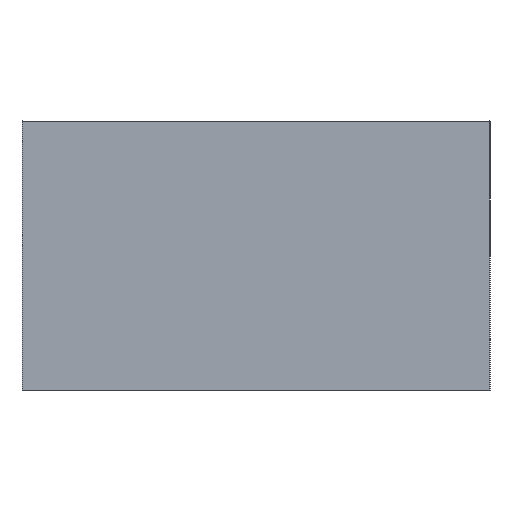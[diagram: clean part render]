
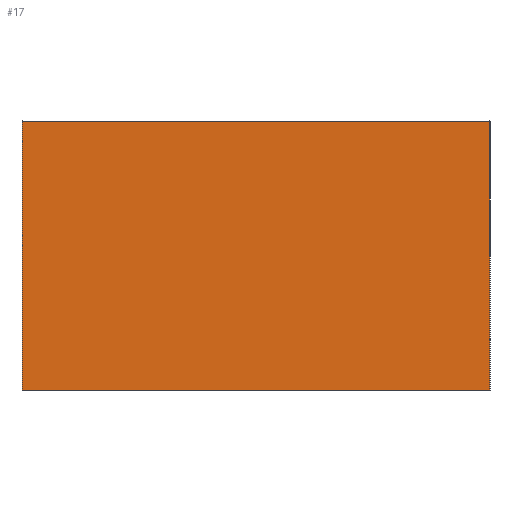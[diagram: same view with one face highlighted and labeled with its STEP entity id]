
A CAD part, left-side view. The second image highlights one B-rep face of the part: STEP entity #17.
In plain terms, the highlighted planar face has unit normal (-1, 0, 0).
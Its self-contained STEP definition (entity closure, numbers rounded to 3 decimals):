
#17 = ADVANCED_FACE('',(#18),#32,.F.);
#18 = FACE_BOUND('',#19,.F.);
#19 = EDGE_LOOP('',(#20,#55,#83,#111));
#20 = ORIENTED_EDGE('',*,*,#21,.F.);
#21 = EDGE_CURVE('',#22,#24,#26,.T.);
#22 = VERTEX_POINT('',#23);
#23 = CARTESIAN_POINT('',(-6.3,-1.69,0.));
#24 = VERTEX_POINT('',#25);
#25 = CARTESIAN_POINT('',(-6.3,-1.69,1.95));
#26 = SURFACE_CURVE('',#27,(#31,#43),.PCURVE_S1.);
#27 = LINE('',#28,#29);
#28 = CARTESIAN_POINT('',(-6.3,-1.69,0.));
#29 = VECTOR('',#30,1.);
#30 = DIRECTION('',(0.,0.,1.));
#31 = PCURVE('',#32,#37);
#32 = PLANE('',#33);
#33 = AXIS2_PLACEMENT_3D('',#34,#35,#36);
#34 = CARTESIAN_POINT('',(-6.3,-1.69,0.));
#35 = DIRECTION('',(1.,0.,-0.));
#36 = DIRECTION('',(0.,0.,1.));
#37 = DEFINITIONAL_REPRESENTATION('',(#38),#42);
#38 = LINE('',#39,#40);
#39 = CARTESIAN_POINT('',(0.,0.));
#40 = VECTOR('',#41,1.);
#41 = DIRECTION('',(1.,0.));
#42 = ( GEOMETRIC_REPRESENTATION_CONTEXT(2) 
PARAMETRIC_REPRESENTATION_CONTEXT() REPRESENTATION_CONTEXT('2D SPACE',''
  ) );
#43 = PCURVE('',#44,#49);
#44 = PLANE('',#45);
#45 = AXIS2_PLACEMENT_3D('',#46,#47,#48);
#46 = CARTESIAN_POINT('',(-6.3,-1.69,0.));
#47 = DIRECTION('',(-0.,1.,0.));
#48 = DIRECTION('',(0.,0.,1.));
#49 = DEFINITIONAL_REPRESENTATION('',(#50),#54);
#50 = LINE('',#51,#52);
#51 = CARTESIAN_POINT('',(0.,0.));
#52 = VECTOR('',#53,1.);
#53 = DIRECTION('',(1.,0.));
#54 = ( GEOMETRIC_REPRESENTATION_CONTEXT(2) 
PARAMETRIC_REPRESENTATION_CONTEXT() REPRESENTATION_CONTEXT('2D SPACE',''
  ) );
#55 = ORIENTED_EDGE('',*,*,#56,.T.);
#56 = EDGE_CURVE('',#22,#57,#59,.T.);
#57 = VERTEX_POINT('',#58);
#58 = CARTESIAN_POINT('',(-6.3,1.69,0.));
#59 = SURFACE_CURVE('',#60,(#64,#71),.PCURVE_S1.);
#60 = LINE('',#61,#62);
#61 = CARTESIAN_POINT('',(-6.3,-1.69,0.));
#62 = VECTOR('',#63,1.);
#63 = DIRECTION('',(-0.,1.,0.));
#64 = PCURVE('',#32,#65);
#65 = DEFINITIONAL_REPRESENTATION('',(#66),#70);
#66 = LINE('',#67,#68);
#67 = CARTESIAN_POINT('',(0.,0.));
#68 = VECTOR('',#69,1.);
#69 = DIRECTION('',(0.,-1.));
#70 = ( GEOMETRIC_REPRESENTATION_CONTEXT(2) 
PARAMETRIC_REPRESENTATION_CONTEXT() REPRESENTATION_CONTEXT('2D SPACE',''
  ) );
#71 = PCURVE('',#72,#77);
#72 = PLANE('',#73);
#73 = AXIS2_PLACEMENT_3D('',#74,#75,#76);
#74 = CARTESIAN_POINT('',(-6.3,-1.69,0.));
#75 = DIRECTION('',(0.,0.,1.));
#76 = DIRECTION('',(1.,0.,-0.));
#77 = DEFINITIONAL_REPRESENTATION('',(#78),#82);
#78 = LINE('',#79,#80);
#79 = CARTESIAN_POINT('',(0.,0.));
#80 = VECTOR('',#81,1.);
#81 = DIRECTION('',(0.,1.));
#82 = ( GEOMETRIC_REPRESENTATION_CONTEXT(2) 
PARAMETRIC_REPRESENTATION_CONTEXT() REPRESENTATION_CONTEXT('2D SPACE',''
  ) );
#83 = ORIENTED_EDGE('',*,*,#84,.T.);
#84 = EDGE_CURVE('',#57,#85,#87,.T.);
#85 = VERTEX_POINT('',#86);
#86 = CARTESIAN_POINT('',(-6.3,1.69,1.95));
#87 = SURFACE_CURVE('',#88,(#92,#99),.PCURVE_S1.);
#88 = LINE('',#89,#90);
#89 = CARTESIAN_POINT('',(-6.3,1.69,0.));
#90 = VECTOR('',#91,1.);
#91 = DIRECTION('',(0.,0.,1.));
#92 = PCURVE('',#32,#93);
#93 = DEFINITIONAL_REPRESENTATION('',(#94),#98);
#94 = LINE('',#95,#96);
#95 = CARTESIAN_POINT('',(0.,-3.38));
#96 = VECTOR('',#97,1.);
#97 = DIRECTION('',(1.,0.));
#98 = ( GEOMETRIC_REPRESENTATION_CONTEXT(2) 
PARAMETRIC_REPRESENTATION_CONTEXT() REPRESENTATION_CONTEXT('2D SPACE',''
  ) );
#99 = PCURVE('',#100,#105);
#100 = PLANE('',#101);
#101 = AXIS2_PLACEMENT_3D('',#102,#103,#104);
#102 = CARTESIAN_POINT('',(-6.3,1.69,0.));
#103 = DIRECTION('',(-0.,1.,0.));
#104 = DIRECTION('',(0.,0.,1.));
#105 = DEFINITIONAL_REPRESENTATION('',(#106),#110);
#106 = LINE('',#107,#108);
#107 = CARTESIAN_POINT('',(0.,0.));
#108 = VECTOR('',#109,1.);
#109 = DIRECTION('',(1.,0.));
#110 = ( GEOMETRIC_REPRESENTATION_CONTEXT(2) 
PARAMETRIC_REPRESENTATION_CONTEXT() REPRESENTATION_CONTEXT('2D SPACE',''
  ) );
#111 = ORIENTED_EDGE('',*,*,#112,.F.);
#112 = EDGE_CURVE('',#24,#85,#113,.T.);
#113 = SURFACE_CURVE('',#114,(#118,#125),.PCURVE_S1.);
#114 = LINE('',#115,#116);
#115 = CARTESIAN_POINT('',(-6.3,-1.69,1.95));
#116 = VECTOR('',#117,1.);
#117 = DIRECTION('',(-0.,1.,0.));
#118 = PCURVE('',#32,#119);
#119 = DEFINITIONAL_REPRESENTATION('',(#120),#124);
#120 = LINE('',#121,#122);
#121 = CARTESIAN_POINT('',(1.95,0.));
#122 = VECTOR('',#123,1.);
#123 = DIRECTION('',(0.,-1.));
#124 = ( GEOMETRIC_REPRESENTATION_CONTEXT(2) 
PARAMETRIC_REPRESENTATION_CONTEXT() REPRESENTATION_CONTEXT('2D SPACE',''
  ) );
#125 = PCURVE('',#126,#131);
#126 = PLANE('',#127);
#127 = AXIS2_PLACEMENT_3D('',#128,#129,#130);
#128 = CARTESIAN_POINT('',(-6.3,-1.69,1.95));
#129 = DIRECTION('',(0.,0.,1.));
#130 = DIRECTION('',(1.,0.,-0.));
#131 = DEFINITIONAL_REPRESENTATION('',(#132),#136);
#132 = LINE('',#133,#134);
#133 = CARTESIAN_POINT('',(0.,0.));
#134 = VECTOR('',#135,1.);
#135 = DIRECTION('',(0.,1.));
#136 = ( GEOMETRIC_REPRESENTATION_CONTEXT(2) 
PARAMETRIC_REPRESENTATION_CONTEXT() REPRESENTATION_CONTEXT('2D SPACE',''
  ) );
